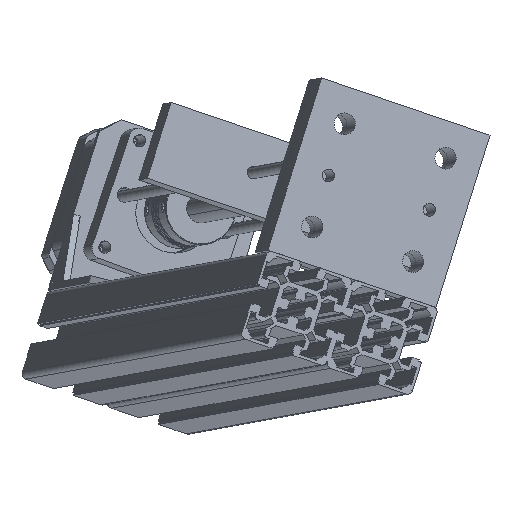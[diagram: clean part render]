
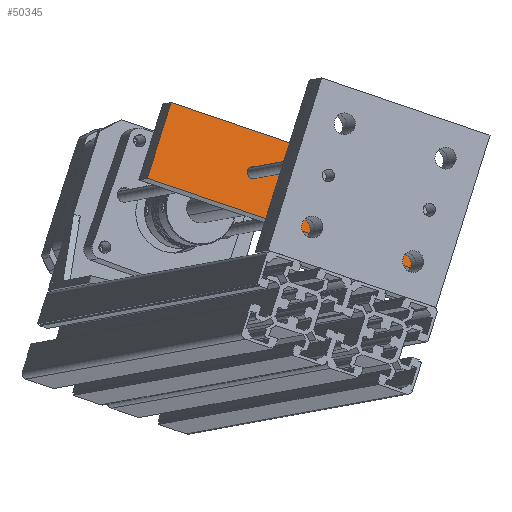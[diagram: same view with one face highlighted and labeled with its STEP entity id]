
A CAD part, front view. The second image highlights one B-rep face of the part: STEP entity #50345.
In plain terms, the highlighted planar face has unit normal (0.233, -0.972, 0.042) as drawn and (0, -1, 0) by its records, which use the part's own axes.
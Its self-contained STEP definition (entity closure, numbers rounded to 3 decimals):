
#718 = DIRECTION ( 'NONE',  ( 0., 0., 1. ) ) ;
#1068 = LINE ( 'NONE', #20437, #67917 ) ;
#1539 = DIRECTION ( 'NONE',  ( -1., 0., 0. ) ) ;
#1784 = EDGE_LOOP ( 'NONE', ( #8589, #18115, #59899, #31643 ) ) ;
#4715 = VERTEX_POINT ( 'NONE', #66590 ) ;
#4726 = VERTEX_POINT ( 'NONE', #28378 ) ;
#6053 = CARTESIAN_POINT ( 'NONE',  ( 28., 0., -11. ) ) ;
#6996 = ORIENTED_EDGE ( 'NONE', *, *, #24800, .T. ) ;
#7882 = VERTEX_POINT ( 'NONE', #16254 ) ;
#8011 = AXIS2_PLACEMENT_3D ( 'NONE', #83382, #37945, #44151 ) ;
#8459 = CARTESIAN_POINT ( 'NONE',  ( 58., 0., -12.75 ) ) ;
#8589 = ORIENTED_EDGE ( 'NONE', *, *, #79848, .F. ) ;
#9187 = CIRCLE ( 'NONE', #9943, 5.3 ) ;
#9943 = AXIS2_PLACEMENT_3D ( 'NONE', #67259, #28779, #73995 ) ;
#10751 = CARTESIAN_POINT ( 'NONE',  ( 0., 0., 0. ) ) ;
#11023 = ORIENTED_EDGE ( 'NONE', *, *, #21715, .T. ) ;
#11173 = FACE_BOUND ( 'NONE', #49315, .T. ) ;
#14258 = AXIS2_PLACEMENT_3D ( 'NONE', #41423, #28680, #34371 ) ;
#16254 = CARTESIAN_POINT ( 'NONE',  ( 28., 0., -12.75 ) ) ;
#18115 = ORIENTED_EDGE ( 'NONE', *, *, #83513, .F. ) ;
#18310 = DIRECTION ( 'NONE',  ( 0., 1., 0. ) ) ;
#18763 = CARTESIAN_POINT ( 'NONE',  ( 86., 0., 0. ) ) ;
#19729 = ORIENTED_EDGE ( 'NONE', *, *, #67589, .T. ) ;
#19880 = DIRECTION ( 'NONE',  ( 0., 0., -1. ) ) ;
#20331 = EDGE_CURVE ( 'NONE', #4715, #28316, #23429, .T. ) ;
#20437 = CARTESIAN_POINT ( 'NONE',  ( 86., 0., 0. ) ) ;
#21715 = EDGE_CURVE ( 'NONE', #7882, #57103, #41181, .T. ) ;
#22147 = CIRCLE ( 'NONE', #48458, 1.75 ) ;
#22988 = CARTESIAN_POINT ( 'NONE',  ( 0., 0., 0. ) ) ;
#23429 = CIRCLE ( 'NONE', #14258, 1.75 ) ;
#24353 = CARTESIAN_POINT ( 'NONE',  ( 43., 0., -5.7 ) ) ;
#24800 = EDGE_CURVE ( 'NONE', #64848, #4726, #33286, .T. ) ;
#26874 = VECTOR ( 'NONE', #718, 1000. ) ;
#28316 = VERTEX_POINT ( 'NONE', #8459 ) ;
#28378 = CARTESIAN_POINT ( 'NONE',  ( 43., 0., -16.3 ) ) ;
#28500 = EDGE_CURVE ( 'NONE', #83008, #71385, #1068, .T. ) ;
#28680 = DIRECTION ( 'NONE',  ( 0., 1., 0. ) ) ;
#28779 = DIRECTION ( 'NONE',  ( 0., 1., 0. ) ) ;
#29682 = EDGE_CURVE ( 'NONE', #28316, #4715, #22147, .T. ) ;
#31011 = LINE ( 'NONE', #22988, #60393 ) ;
#31643 = ORIENTED_EDGE ( 'NONE', *, *, #38221, .F. ) ;
#33263 = CARTESIAN_POINT ( 'NONE',  ( 0., 0., -22. ) ) ;
#33286 = CIRCLE ( 'NONE', #8011, 5.3 ) ;
#34371 = DIRECTION ( 'NONE',  ( 0., 0., 1. ) ) ;
#35413 = DIRECTION ( 'NONE',  ( 0., 1., 0. ) ) ;
#36255 = DIRECTION ( 'NONE',  ( 0., 0., 1. ) ) ;
#36831 = AXIS2_PLACEMENT_3D ( 'NONE', #43510, #18310, #51147 ) ;
#37749 = CIRCLE ( 'NONE', #36831, 1.75 ) ;
#37945 = DIRECTION ( 'NONE',  ( 0., 1., 0. ) ) ;
#38221 = EDGE_CURVE ( 'NONE', #59324, #83008, #31011, .T. ) ;
#38311 = DIRECTION ( 'NONE',  ( 0., 1., 0. ) ) ;
#39073 = DIRECTION ( 'NONE',  ( 0., 1., 0. ) ) ;
#41181 = CIRCLE ( 'NONE', #83078, 1.75 ) ;
#41423 = CARTESIAN_POINT ( 'NONE',  ( 58., 0., -11. ) ) ;
#42604 = CARTESIAN_POINT ( 'NONE',  ( 86., 0., -22. ) ) ;
#42718 = EDGE_CURVE ( 'NONE', #57103, #7882, #37749, .T. ) ;
#43510 = CARTESIAN_POINT ( 'NONE',  ( 28., 0., -11. ) ) ;
#43575 = FACE_OUTER_BOUND ( 'NONE', #1784, .T. ) ;
#44151 = DIRECTION ( 'NONE',  ( 0., 0., 1. ) ) ;
#47623 = ORIENTED_EDGE ( 'NONE', *, *, #20331, .T. ) ;
#48458 = AXIS2_PLACEMENT_3D ( 'NONE', #77734, #39073, #59129 ) ;
#49315 = EDGE_LOOP ( 'NONE', ( #79705, #11023 ) ) ;
#50345 = ADVANCED_FACE ( 'NONE', ( #11173, #66853, #60749, #43575 ), #60835, .F. ) ;
#51147 = DIRECTION ( 'NONE',  ( 0., 0., -1. ) ) ;
#53357 = VERTEX_POINT ( 'NONE', #80168 ) ;
#57103 = VERTEX_POINT ( 'NONE', #83270 ) ;
#59129 = DIRECTION ( 'NONE',  ( 0., 0., 1. ) ) ;
#59324 = VERTEX_POINT ( 'NONE', #60286 ) ;
#59899 = ORIENTED_EDGE ( 'NONE', *, *, #28500, .F. ) ;
#60286 = CARTESIAN_POINT ( 'NONE',  ( 0., 0., 0. ) ) ;
#60393 = VECTOR ( 'NONE', #81488, 1000. ) ;
#60749 = FACE_BOUND ( 'NONE', #63623, .T. ) ;
#60835 = PLANE ( 'NONE',  #70494 ) ;
#63623 = EDGE_LOOP ( 'NONE', ( #6996, #19729 ) ) ;
#63712 = ORIENTED_EDGE ( 'NONE', *, *, #29682, .T. ) ;
#64848 = VERTEX_POINT ( 'NONE', #24353 ) ;
#66590 = CARTESIAN_POINT ( 'NONE',  ( 58., 0., -9.25 ) ) ;
#66853 = FACE_BOUND ( 'NONE', #73361, .T. ) ;
#66888 = CARTESIAN_POINT ( 'NONE',  ( 86., 0., -22. ) ) ;
#67259 = CARTESIAN_POINT ( 'NONE',  ( 43., 0., -11. ) ) ;
#67589 = EDGE_CURVE ( 'NONE', #4726, #64848, #9187, .T. ) ;
#67917 = VECTOR ( 'NONE', #19880, 1000. ) ;
#70494 = AXIS2_PLACEMENT_3D ( 'NONE', #10751, #35413, #36255 ) ;
#71385 = VERTEX_POINT ( 'NONE', #42604 ) ;
#73361 = EDGE_LOOP ( 'NONE', ( #47623, #63712 ) ) ;
#73995 = DIRECTION ( 'NONE',  ( 0., 0., 1. ) ) ;
#75824 = LINE ( 'NONE', #66888, #83923 ) ;
#76982 = DIRECTION ( 'NONE',  ( 0., 0., -1. ) ) ;
#77734 = CARTESIAN_POINT ( 'NONE',  ( 58., 0., -11. ) ) ;
#79705 = ORIENTED_EDGE ( 'NONE', *, *, #42718, .T. ) ;
#79848 = EDGE_CURVE ( 'NONE', #53357, #59324, #80534, .T. ) ;
#80168 = CARTESIAN_POINT ( 'NONE',  ( 0., 0., -22. ) ) ;
#80534 = LINE ( 'NONE', #33263, #26874 ) ;
#81488 = DIRECTION ( 'NONE',  ( 1., 0., 0. ) ) ;
#83008 = VERTEX_POINT ( 'NONE', #18763 ) ;
#83078 = AXIS2_PLACEMENT_3D ( 'NONE', #6053, #38311, #76982 ) ;
#83270 = CARTESIAN_POINT ( 'NONE',  ( 28., 0., -9.25 ) ) ;
#83382 = CARTESIAN_POINT ( 'NONE',  ( 43., 0., -11. ) ) ;
#83513 = EDGE_CURVE ( 'NONE', #71385, #53357, #75824, .T. ) ;
#83923 = VECTOR ( 'NONE', #1539, 1000. ) ;
